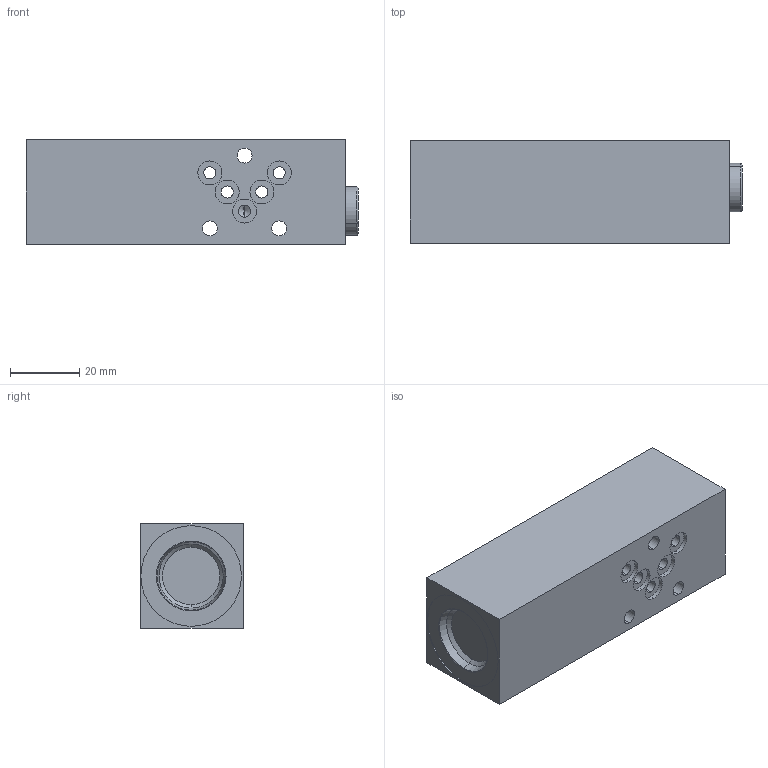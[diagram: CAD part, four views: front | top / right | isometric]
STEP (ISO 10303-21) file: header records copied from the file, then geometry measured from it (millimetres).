
FILE_DESCRIPTION (( 'STEP AP214' ), '1' );
FILE_NAME ('MVPSA03-P.STEP', '2017-04-13T12:34:08', ( '' ), ( '' ), 'SwSTEP 2.0', 'SolidWorks 2016', '' );
FILE_SCHEMA (( 'AUTOMOTIVE_DESIGN' ));
Length unit declared in the file: millimetre
Products named in the file (1): MVPSA03-P
Bounding box: 95.7 x 29.5 x 30 mm (x, y, z)
Volume: 77100.4 mm3; surface area: 18124.6 mm2
Topology: 7 solids, 11 shells, 197 faces, 426 edges, 250 vertices
Faces by surface type: cylinder 86, cone 56, plane 35, sphere 16, torus 4
Entity records: 7493 total; most frequent: DIRECTION 1028, CARTESIAN_POINT 850, ORIENTED_EDGE 804, AXIS2_PLACEMENT_3D 428, EDGE_CURVE 402, VERTEX_POINT 250, EDGE_LOOP 236, CIRCLE 230
